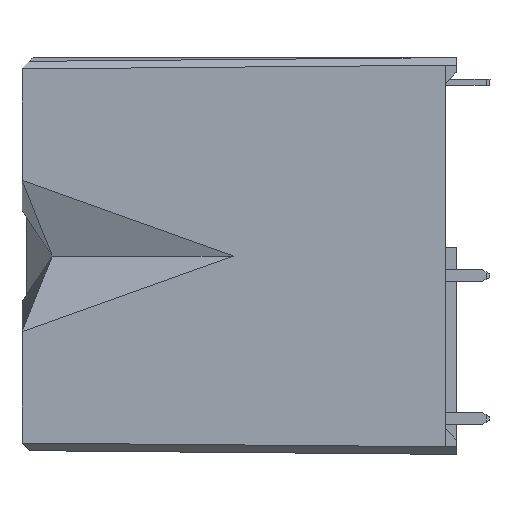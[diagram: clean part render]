
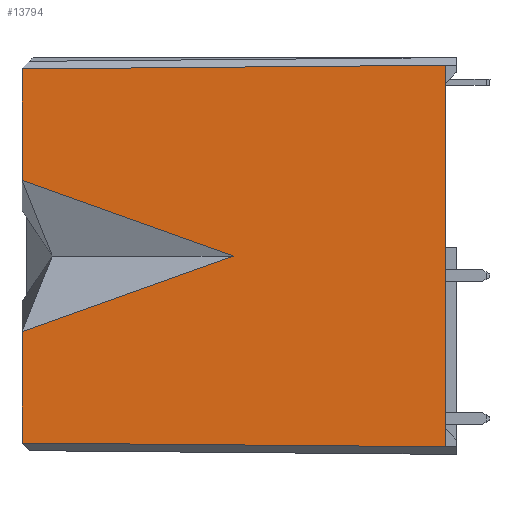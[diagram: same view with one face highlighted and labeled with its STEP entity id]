
A CAD part, left-side view. The second image highlights one B-rep face of the part: STEP entity #13794.
In plain terms, the highlighted planar face has unit normal (-1, 0.009, 0).
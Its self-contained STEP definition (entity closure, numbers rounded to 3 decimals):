
#3255=ORIENTED_EDGE('',*,*,#5859,.F.);
#3256=ORIENTED_EDGE('',*,*,#5860,.T.);
#3257=ORIENTED_EDGE('',*,*,#5817,.T.);
#3258=ORIENTED_EDGE('',*,*,#5861,.T.);
#3259=ORIENTED_EDGE('',*,*,#5862,.F.);
#3260=ORIENTED_EDGE('',*,*,#5863,.T.);
#3261=ORIENTED_EDGE('',*,*,#5864,.F.);
#3262=ORIENTED_EDGE('',*,*,#5865,.F.);
#3263=ORIENTED_EDGE('',*,*,#5866,.F.);
#3264=ORIENTED_EDGE('',*,*,#5867,.F.);
#3265=ORIENTED_EDGE('',*,*,#5868,.T.);
#5817=EDGE_CURVE('',#7359,#7358,#9045,.T.);
#5859=EDGE_CURVE('',#7391,#7392,#9085,.T.);
#5860=EDGE_CURVE('',#7391,#7359,#9086,.T.);
#5861=EDGE_CURVE('',#7358,#7393,#9087,.T.);
#5862=EDGE_CURVE('',#7394,#7393,#9088,.T.);
#5863=EDGE_CURVE('',#7394,#7395,#9089,.T.);
#5864=EDGE_CURVE('',#7396,#7395,#9090,.T.);
#5865=EDGE_CURVE('',#7397,#7396,#9091,.T.);
#5866=EDGE_CURVE('',#7398,#7397,#9092,.T.);
#5867=EDGE_CURVE('',#7399,#7398,#9093,.T.);
#5868=EDGE_CURVE('',#7399,#7392,#9094,.T.);
#7358=VERTEX_POINT('',#23678);
#7359=VERTEX_POINT('',#23680);
#7391=VERTEX_POINT('',#23763);
#7392=VERTEX_POINT('',#23764);
#7393=VERTEX_POINT('',#23767);
#7394=VERTEX_POINT('',#23769);
#7395=VERTEX_POINT('',#23771);
#7396=VERTEX_POINT('',#23773);
#7397=VERTEX_POINT('',#23775);
#7398=VERTEX_POINT('',#23777);
#7399=VERTEX_POINT('',#23779);
#9045=LINE('',#23679,#10792);
#9085=LINE('',#23762,#10832);
#9086=LINE('',#23765,#10833);
#9087=LINE('',#23766,#10834);
#9088=LINE('',#23768,#10835);
#9089=LINE('',#23770,#10836);
#9090=LINE('',#23772,#10837);
#9091=LINE('',#23774,#10838);
#9092=LINE('',#23776,#10839);
#9093=LINE('',#23778,#10840);
#9094=LINE('',#23780,#10841);
#10792=VECTOR('',#17606,1000.);
#10832=VECTOR('',#17668,1000.);
#10833=VECTOR('',#17669,1000.);
#10834=VECTOR('',#17670,1000.);
#10835=VECTOR('',#17671,1000.);
#10836=VECTOR('',#17672,1000.);
#10837=VECTOR('',#17673,1000.);
#10838=VECTOR('',#17674,1000.);
#10839=VECTOR('',#17675,1000.);
#10840=VECTOR('',#17676,1000.);
#10841=VECTOR('',#17677,1000.);
#11675=EDGE_LOOP('',(#3255,#3256,#3257,#3258,#3259,#3260,#3261,#3262,#3263,
#3264,#3265));
#12467=FACE_BOUND('',#11675,.T.);
#13152=PLANE('',#14739);
#13794=ADVANCED_FACE('',(#12467),#13152,.T.);
#14739=AXIS2_PLACEMENT_3D('',#23761,#17666,#17667);
#17606=DIRECTION('',(0.,0.,1.));
#17666=DIRECTION('',(-1.,0.009,0.));
#17667=DIRECTION('',(0.,0.,-1.));
#17668=DIRECTION('',(0.009,1.,0.009));
#17669=DIRECTION('',(0.,0.,1.));
#17670=DIRECTION('',(0.,0.,1.));
#17671=DIRECTION('',(-0.009,-1.,0.009));
#17672=DIRECTION('',(0.,0.,-1.));
#17673=DIRECTION('',(0.004,0.414,0.91));
#17674=DIRECTION('',(0.008,0.941,0.337));
#17675=DIRECTION('',(-0.008,-0.941,0.337));
#17676=DIRECTION('',(-0.004,-0.414,0.91));
#17677=DIRECTION('',(0.,0.,-1.));
#23678=CARTESIAN_POINT('',(-38.1,-3.75,43.55));
#23679=CARTESIAN_POINT('',(-38.1,-3.75,-3.5));
#23680=CARTESIAN_POINT('',(-38.1,-3.75,-2.05));
#23761=CARTESIAN_POINT('',(-37.611,52.258,-4.51));
#23762=CARTESIAN_POINT('',(-37.611,52.254,-4.011));
#23763=CARTESIAN_POINT('',(-38.1,-3.75,-4.5));
#23764=CARTESIAN_POINT('',(-37.611,52.25,-4.011));
#23765=CARTESIAN_POINT('',(-38.1,-3.75,-4.5));
#23766=CARTESIAN_POINT('',(-38.1,-3.75,-3.5));
#23767=CARTESIAN_POINT('',(-38.1,-3.75,46.));
#23768=CARTESIAN_POINT('',(-37.607,52.694,45.507));
#23769=CARTESIAN_POINT('',(-37.611,52.25,45.511));
#23770=CARTESIAN_POINT('',(-37.611,52.25,23.949));
#23771=CARTESIAN_POINT('',(-37.611,52.25,30.793));
#23772=CARTESIAN_POINT('',(-37.727,38.953,1.537));
#23773=CARTESIAN_POINT('',(-37.611,52.234,30.758));
#23774=CARTESIAN_POINT('',(-37.709,41.058,26.755));
#23775=CARTESIAN_POINT('',(-37.855,24.297,20.75));
#23776=CARTESIAN_POINT('',(-37.569,57.097,8.999));
#23777=CARTESIAN_POINT('',(-37.611,52.234,10.742));
#23778=CARTESIAN_POINT('',(-37.561,57.983,-1.908));
#23779=CARTESIAN_POINT('',(-37.611,52.25,10.707));
#23780=CARTESIAN_POINT('',(-37.611,52.25,-4.51));
